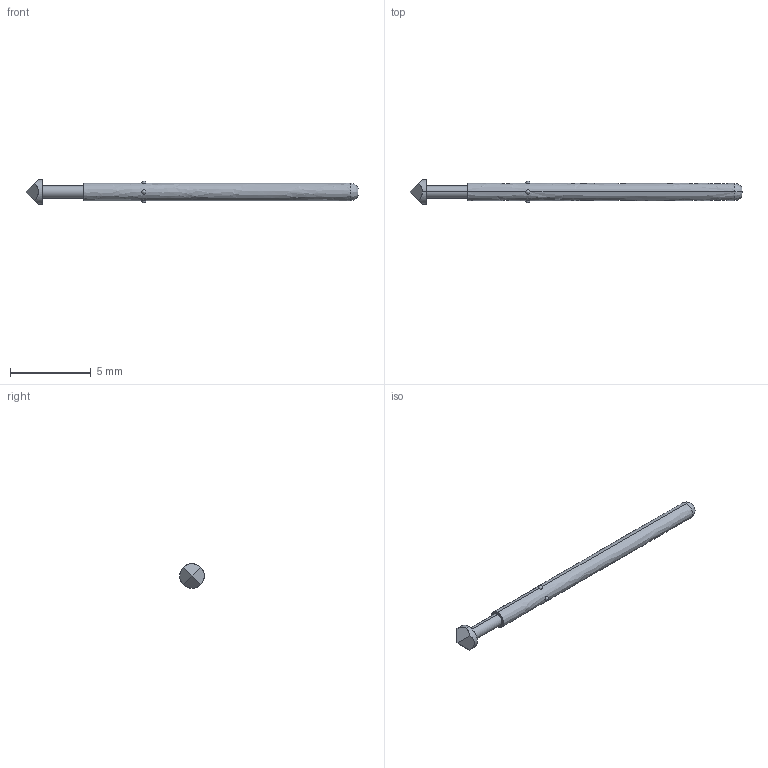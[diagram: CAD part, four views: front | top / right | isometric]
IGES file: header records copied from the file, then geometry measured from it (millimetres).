
Start section: SolidWorks IGES file using analytic representation for surfaces
Global section: file name: O:\PYLON\IGES FILES\P2663\P2663G-1P1S.IGS; native system: SolidWorks 2015; preprocessor: SolidWorks 2015; author: kgolden; date: 171019.102117; units: inch
Bounding box: 20.53 x 1.52 x 1.52 mm (x, y, z)
Surface area: 73.9 mm2 (no closed solid volume)
Topology: 0 solids, 0 shells, 25 faces, 314 edges, 298 vertices
Faces by surface type: revolution 16, bspline 9
